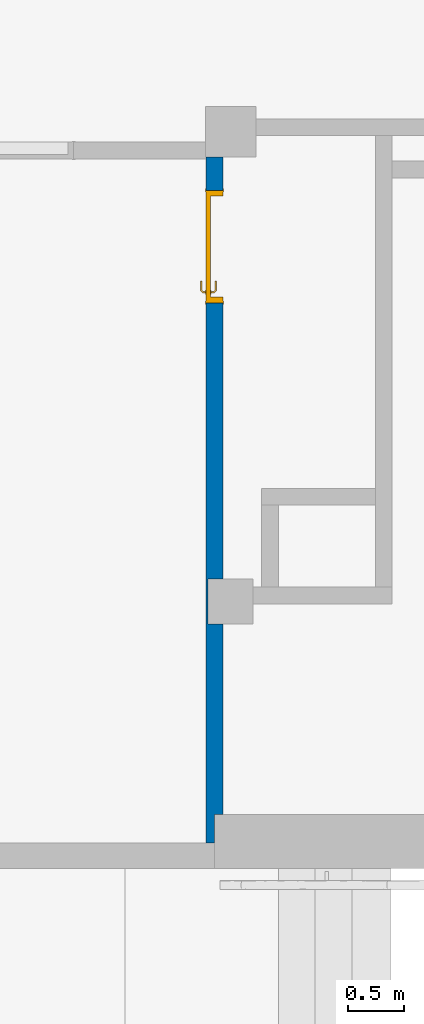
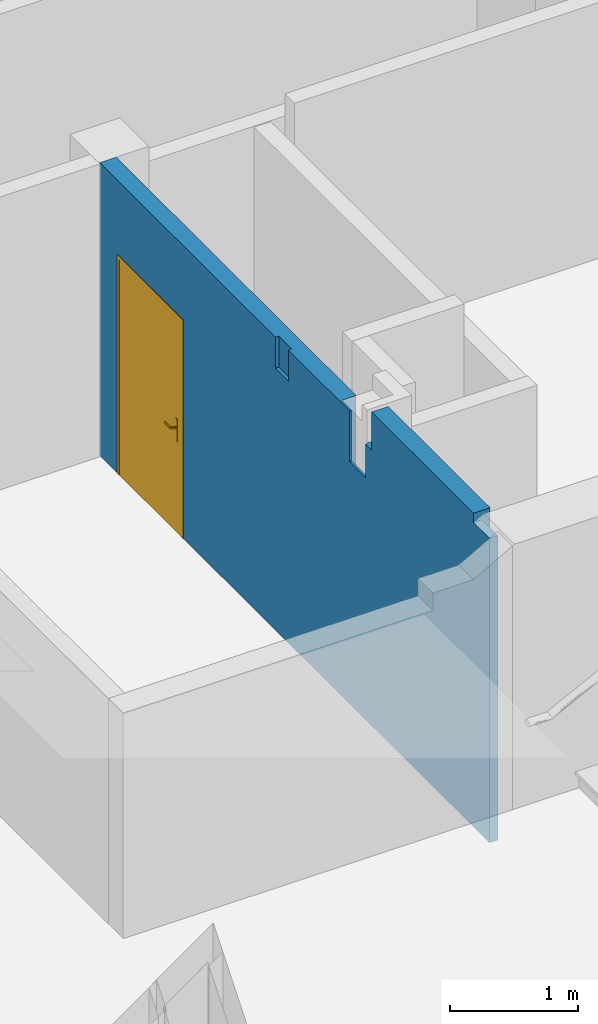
# One storey, part 11 of 39: 1 door, 1 wall, 1 opening.
"""IFC4 building model written with IfcOpenShell, lengths in metres."""

from ifc_helpers import new_model, entity, si_unit, converted_unit, derived_unit, direction, frame, origin, place, context, subcontext, project, spatial, indexed_curve, outline, extrude, polygons, source, transform, mapped, material, material_list, layer, layer_set, constituent, constituent_set, type_object, type_shapes, element, fill, save


model = new_model("IFC4")

# Units and contexts
model_context = context("Model", 3, precision=1e-05, world=origin(), true_north=direction((6.12303176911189e-17, 1.0)))
body_context = subcontext(model_context, "Body", "Model", "MODEL_VIEW")
ifc_project = project(units=[si_unit("LENGTHUNIT", "METRE"), si_unit("AREAUNIT", "SQUARE_METRE"), si_unit("VOLUMEUNIT", "CUBIC_METRE"), converted_unit("PLANEANGLEUNIT", "DEGREE", entity("IfcRatioMeasure", 0.0174532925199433), si_unit("PLANEANGLEUNIT", "RADIAN"), dimensions=[0, 0, 0, 0, 0, 0, 0]), si_unit("MASSUNIT", "GRAM", prefix="KILO"), derived_unit("MASSDENSITYUNIT", [(si_unit("MASSUNIT", "GRAM", prefix="KILO"), 1), (si_unit("LENGTHUNIT", "METRE"), -3)]), derived_unit("MOMENTOFINERTIAUNIT", [(si_unit("LENGTHUNIT", "METRE"), 4)]), si_unit("TIMEUNIT", "SECOND"), si_unit("FREQUENCYUNIT", "HERTZ"), si_unit("THERMODYNAMICTEMPERATUREUNIT", "DEGREE_CELSIUS"), derived_unit("THERMALTRANSMITTANCEUNIT", [(si_unit("MASSUNIT", "GRAM", prefix="KILO"), 1), (si_unit("THERMODYNAMICTEMPERATUREUNIT", "KELVIN"), -1), (si_unit("TIMEUNIT", "SECOND"), -3)]), derived_unit("VOLUMETRICFLOWRATEUNIT", [(si_unit("LENGTHUNIT", "METRE"), 3), (si_unit("TIMEUNIT", "SECOND"), -1)]), si_unit("ELECTRICCURRENTUNIT", "AMPERE"), si_unit("ELECTRICVOLTAGEUNIT", "VOLT"), si_unit("POWERUNIT", "WATT"), si_unit("FORCEUNIT", "NEWTON", prefix="KILO"), si_unit("ILLUMINANCEUNIT", "LUX"), si_unit("LUMINOUSFLUXUNIT", "LUMEN"), si_unit("LUMINOUSINTENSITYUNIT", "CANDELA"), derived_unit("USERDEFINED", [(si_unit("MASSUNIT", "GRAM", prefix="KILO"), -1), (si_unit("LENGTHUNIT", "METRE"), -2), (si_unit("TIMEUNIT", "SECOND"), 3), (si_unit("LUMINOUSFLUXUNIT", "LUMEN"), 1)]), derived_unit("LINEARVELOCITYUNIT", [(si_unit("LENGTHUNIT", "METRE"), 1), (si_unit("TIMEUNIT", "SECOND"), -1)]), si_unit("PRESSUREUNIT", "PASCAL"), derived_unit("USERDEFINED", [(si_unit("LENGTHUNIT", "METRE"), -2), (si_unit("MASSUNIT", "GRAM", prefix="KILO"), 1), (si_unit("TIMEUNIT", "SECOND"), -2)]), derived_unit("LINEARFORCEUNIT", [(si_unit("MASSUNIT", "GRAM", prefix="KILO"), 1), (si_unit("LENGTHUNIT", "METRE"), 1), (si_unit("TIMEUNIT", "SECOND"), -2), (si_unit("LENGTHUNIT", "METRE"), -1)]), derived_unit("PLANARFORCEUNIT", [(si_unit("MASSUNIT", "GRAM", prefix="KILO"), 1), (si_unit("LENGTHUNIT", "METRE"), 1), (si_unit("TIMEUNIT", "SECOND"), -2), (si_unit("LENGTHUNIT", "METRE"), -2)])], contexts=[model_context])

# Site, building, storey
site_placement = place(None, origin())
site = spatial("IfcSite", under=ifc_project, at=site_placement, Name="Default", CompositionType="ELEMENT")
building_placement = place(site_placement, origin())
building = spatial("IfcBuilding", under=site, at=building_placement, Name="HOTEL CONSULAIRE BOULOGNE SUR MER", CompositionType="ELEMENT")
storey_placement = place(building_placement, frame((0.0, 0.0, -5.02343668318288)))
storey = spatial("IfcBuildingStorey", under=building, at=storey_placement, Name="SS3", CompositionType="ELEMENT", Elevation=-5.02343668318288)

# Wall, opening, door
ifc_material_1 = material(Name="Mur par défaut", Category="Divers")
ifc_layer = layer(ifc_material_1, 0.15, Name="Mur par défaut", Category="Divers")
ifc_layer_set = layer_set([ifc_layer], Name="Mur de base:Générique - Int. 150 mm")
wall_type = type_object("IfcWallType", Name="Mur de base:Générique - Int. 150 mm", PredefinedType="NOTDEFINED", material=ifc_layer_set)
wall_placement = place(storey_placement, frame((-1.37215893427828, -21.9392190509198, -0.43), z_axis=(0.0, 0.0, 1.0), x_axis=(0.0, 1.0, 0.0)))
wall = element("IfcWall", 1, at=wall_placement, inside=storey, type_object=wall_type, material=ifc_layer_set, Name="Mur de base:Générique - Int. 150 mm", ObjectType="Mur de base:Générique - Int. 150 mm", PredefinedType="NOTDEFINED", context=body_context, shape_type="Tessellation", body=[
    polygons([(5.80294575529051, -0.075, 2.075), (5.80294575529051, -0.075, 0.0), (6.09830924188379, -0.0749999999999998, 0.0), (6.09830924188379, -0.0749999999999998, 2.79499999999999), (5.92930924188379, -0.0749999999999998, 2.79499999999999), (2.34630924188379, -0.0749999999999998, 2.79499999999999), (2.34630924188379, -0.0749999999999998, 2.48999999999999), (2.34630924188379, -0.0749999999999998, 0.0), (4.80294575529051, -0.075, 0.0), (4.80294575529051, -0.075, 2.075), (0.0, 0.075, 0.0), (4.80294575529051, 0.075, 0.0), (2.34630924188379, 0.056664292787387, 0.0), (1.94630924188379, 0.0566642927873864, 0.0), (1.94630924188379, -0.0749999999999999, 0.0), (0.250000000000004, -0.0749999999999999, 0.0), (0.249999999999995, -7.36320987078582e-16, 0.0), (0.0, -5.19919367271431e-17, 0.0), (0.250000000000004, -0.0749999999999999, 2.90628343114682), (0.250000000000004, -0.0749999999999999, 0.452), (0.250000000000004, -0.0749999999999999, 0.162), (1.94630924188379, -0.0749999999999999, 2.48999999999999), (1.94630924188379, -0.0749999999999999, 2.62999999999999), (1.8443046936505, -0.0749999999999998, 2.62999999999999), (1.8443046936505, -0.0749999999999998, 2.99499999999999), (0.249999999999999, -0.0749999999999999, 2.99499999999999), (0.0, 0.075, 2.90628343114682), (0.249999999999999, 0.0750000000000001, 2.90628343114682), (0.249999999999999, 0.0750000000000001, 2.99499999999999), (1.8443046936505, 0.0750000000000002, 2.99499999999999), (1.8443046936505, 0.0750000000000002, 2.62999999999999), (1.94098772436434, 0.0750000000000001, 2.62999999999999), (1.94098772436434, 0.0750000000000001, 2.30999999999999), (2.19098772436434, 0.0750000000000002, 2.30999999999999), (2.19098772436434, 0.0750000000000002, 2.79499999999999), (3.14868059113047, 0.0750000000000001, 2.79499999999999), (3.14868059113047, 0.0750000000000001, 2.49999999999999), (3.34868059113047, 0.0750000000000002, 2.49999999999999), (3.34868059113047, 0.0750000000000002, 2.79499999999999), (6.08098563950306, 0.0750000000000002, 2.79499999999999), (6.09830924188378, 0.0750000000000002, 2.79499999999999), (6.09830924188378, 0.0750000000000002, 0.0), (6.08098563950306, 0.0750000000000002, 0.0), (5.80294575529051, 0.075, 0.0), (5.80294575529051, 0.075, 2.075), (4.80294575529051, 0.075, 2.075), (0.249999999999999, -1.94887422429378e-16, 2.90628343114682), (0.249999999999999, -1.94887422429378e-16, 2.74999999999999), (1.94630924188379, 0.0566642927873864, 2.62999999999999), (1.94630924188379, -0.0624678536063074, 2.62999999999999), (1.94630924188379, 0.0568026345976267, 2.30999999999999), (2.34630924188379, 0.056664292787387, 2.79499999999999), (2.19098772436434, 0.0566642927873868, 2.79499999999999), (2.19098772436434, 0.0566642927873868, 2.30999999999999), (1.94098772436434, 0.056802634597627, 2.62999999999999), (1.8443046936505, -0.0624678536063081, 2.62999999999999), (3.34868059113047, 0.0440469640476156, 2.79499999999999), (3.14868059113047, 0.0440469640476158, 2.79499999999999), (0.0, -5.19919367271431e-17, 2.90628343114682), (3.34868059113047, 0.0440469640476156, 2.49999999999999), (3.14868059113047, 0.0440469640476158, 2.49999999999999), (1.94098772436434, 0.0568026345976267, 2.30999999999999)], [[[8, 9, 10, 1, 2, 3, 4, 5, 6, 7]], [[20, 21, 16, 15, 22, 23, 24, 25, 26, 19]], [[52, 53, 54, 14, 13]], [[59, 18, 17, 48, 47]], [[16, 17, 18, 11, 12, 9, 8, 13, 14, 15]], [[45, 1, 10, 46]], [[3, 2, 44, 43, 42]], [[45, 46, 12, 11, 27, 28, 29, 30, 31, 32, 33, 34, 35, 36, 37, 38, 39, 40, 41, 42, 43, 44]], [[61, 58, 57, 60]], [[48, 17, 16, 21, 20, 19, 26, 29, 28, 47]], [[7, 6, 52, 13, 8]], [[44, 2, 1, 45]], [[27, 11, 18, 59]], [[38, 60, 57, 39]], [[35, 34, 54, 53]], [[22, 15, 14, 51, 49, 50, 23]], [[12, 46, 10, 9]], [[42, 41, 4, 3]], [[56, 31, 30, 25, 24]], [[36, 58, 61, 37]], [[32, 55, 62, 33]], [[51, 14, 54]], [[56, 24, 23, 50, 49, 55, 32, 31]], [[52, 6, 5, 4, 41, 40, 39, 57, 58, 36, 35, 53]], [[26, 25, 30, 29]], [[28, 27, 59, 47]], [[37, 61, 60, 38]], [[33, 62, 51, 54, 34]], [[62, 55, 49]], [[49, 51, 62]]], closed=True),
])
opening_placement = place(wall_placement, frame((4.80294575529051, -0.0749999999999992, 0.0)))
opening = element("IfcOpeningElement", 2, at=opening_placement, cuts=wall, Name="Int. Simple:PP0.93x2.04:1", ObjectType="Opening", PredefinedType="OPENING", context=body_context, shape_type="SweptSolid", body=[
    extrude(outline(indexed_curve([(0.0, 1.0), (0.0, -5.39454731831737e-32), (2.075, -5.39454731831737e-32), (2.075, 1.0), (0.0, 1.0)], self_intersect=False)), frame((0.0, 0.0, 0.0), z_axis=(0.0, 1.0, 0.0), x_axis=(0.0, 0.0, 1.0)), (0.0, 0.0, 1.0), 0.15),
])
ifc_material_2 = material(Name="Finition Peinture - Blanc satiné", Category="Peinture")
ifc_constituent_1 = constituent(ifc_material_2, Name="Finition Peinture - Blanc satiné", Category="Matériaux")
ifc_material_3 = material(Name="Bois - Panneau de porte", Category="Bois")
ifc_constituent_2 = constituent(ifc_material_3, Name="Bois - Panneau de porte", Category="Matériaux")
ifc_material_4 = material(Name="Bois - Cadre de porte", Category="Bois")
ifc_constituent_3 = constituent(ifc_material_4, Name="Bois - Cadre de porte", Category="Matériaux")
ifc_constituent_set = constituent_set(constituents=[ifc_constituent_1, ifc_constituent_2, ifc_constituent_3], Name="MaterialConstituentSet")
ifc_material_list = material_list([ifc_material_2, ifc_material_4, ifc_material_3, ifc_material_4])
door_type = type_object("IfcDoorType", Name="Int. Simple:PP0.93x2.04", OperationType="NOTDEFINED", PredefinedType="DOOR", material=ifc_material_list)
shared_shape = source(origin(), body_context, "Body", "Tessellation", [
    polygons([(0.995000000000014, -0.00500000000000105, 0.870000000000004), (0.995000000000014, -0.00500000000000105, 1.08), (0.985352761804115, -0.00500000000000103, 1.08399601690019), (0.975000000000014, -0.00500000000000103, 1.08535898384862), (0.964647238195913, -0.00500000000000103, 1.08399601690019), (0.955000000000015, -0.00500000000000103, 1.08), (0.955000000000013, -0.00500000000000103, 0.870000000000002), (0.964647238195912, -0.00500000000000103, 0.866003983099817), (0.975000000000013, -0.00500000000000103, 0.86464101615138), (0.985352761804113, -0.00500000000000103, 0.866003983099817), (0.995000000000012, -1.04902753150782e-15, 0.870000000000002), (0.985352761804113, -1.04902753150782e-15, 0.866003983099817), (0.975000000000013, -1.04056763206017e-15, 0.86464101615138), (0.964647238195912, -1.04056763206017e-15, 0.866003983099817), (0.955000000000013, -1.03210773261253e-15, 0.870000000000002), (0.955000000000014, -1.03210773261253e-15, 1.08), (0.964647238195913, -1.04056763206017e-15, 1.08399601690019), (0.975000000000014, -1.04056763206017e-15, 1.08535898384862), (0.985352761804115, -1.04902753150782e-15, 1.08399601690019), (0.995000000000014, -1.04902753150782e-15, 1.08)], [[[1, 2, 3, 4, 5, 6, 7, 8, 9, 10]], [[20, 11, 12, 13, 14, 15, 16, 17, 18, 19]], [[10, 12, 11, 1]], [[9, 13, 12, 10]], [[8, 14, 13, 9]], [[8, 7, 15, 14]], [[15, 7, 6, 16]], [[5, 17, 16, 6]], [[4, 18, 17, 5]], [[3, 19, 18, 4]], [[3, 2, 20, 19]], [[11, 20, 2, 1]]], closed=True),
    polygons([(0.955000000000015, 0.0399999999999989, 1.08), (0.955000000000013, 0.0399999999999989, 0.870000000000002), (0.964647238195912, 0.0399999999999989, 0.866003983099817), (0.975000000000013, 0.0399999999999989, 0.86464101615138), (0.985352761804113, 0.0399999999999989, 0.866003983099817), (0.995000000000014, 0.0399999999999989, 0.870000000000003), (0.995000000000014, 0.0399999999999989, 1.08), (0.985352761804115, 0.0399999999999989, 1.08399601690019), (0.975000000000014, 0.0399999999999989, 1.08535898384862), (0.964647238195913, 0.0399999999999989, 1.08399601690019), (0.955000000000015, 0.044999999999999, 1.08), (0.964647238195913, 0.0449999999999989, 1.08399601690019), (0.975000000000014, 0.0449999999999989, 1.08535898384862), (0.985352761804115, 0.0449999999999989, 1.08399601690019), (0.995000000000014, 0.0449999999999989, 1.08), (0.995000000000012, 0.0449999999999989, 0.870000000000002), (0.985352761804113, 0.0449999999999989, 0.866003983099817), (0.975000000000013, 0.0449999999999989, 0.86464101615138), (0.964647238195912, 0.0449999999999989, 0.866003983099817), (0.955000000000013, 0.044999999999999, 0.870000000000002)], [[[6, 7, 8, 9, 10, 1, 2, 3, 4, 5]], [[13, 14, 15, 16, 17, 18, 19, 20, 11, 12]], [[10, 12, 11, 1]], [[9, 13, 12, 10]], [[8, 14, 13, 9]], [[8, 7, 15, 14]], [[16, 15, 7, 6]], [[5, 17, 16, 6]], [[4, 18, 17, 5]], [[3, 19, 18, 4]], [[3, 2, 20, 19]], [[20, 2, 1, 11]]], closed=True),
    polygons([(0.981000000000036, -0.00500000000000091, 1.00699999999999), (0.981000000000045, -0.00500000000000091, 0.992999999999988), (0.977025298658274, -0.00500000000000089, 0.99221955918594), (0.972974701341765, -0.00500000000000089, 0.992219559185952), (0.968999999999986, -0.00500000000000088, 0.993000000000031), (0.968999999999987, -0.00500000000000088, 1.007), (0.972974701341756, -0.00500000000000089, 1.00778044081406), (0.977025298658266, -0.00500000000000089, 1.00778044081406), (0.968999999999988, -0.0276803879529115, 1.007), (0.972974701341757, -0.0293267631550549, 1.00778044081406), (0.977025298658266, -0.0310045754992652, 1.00778044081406), (0.981000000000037, -0.0326509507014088, 1.007), (0.968999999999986, -0.0276803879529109, 0.993000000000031), (0.981000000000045, -0.0326509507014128, 0.992999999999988), (0.977025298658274, -0.0310045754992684, 0.99221955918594), (0.972974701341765, -0.0293267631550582, 0.992219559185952), (0.957652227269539, -0.0390281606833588, 1.007), (0.959298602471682, -0.0430028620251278, 1.00778044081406), (0.960976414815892, -0.0470534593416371, 1.00778044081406), (0.962622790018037, -0.051028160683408, 1.007), (0.957652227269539, -0.0390281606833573, 0.993000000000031), (0.96262279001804, -0.0510281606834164, 0.992999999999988), (0.960976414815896, -0.0470534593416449, 0.99221955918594), (0.959298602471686, -0.0430028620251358, 0.992219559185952), (0.874981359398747, -0.0510281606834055, 1.007), (0.874981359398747, -0.0470534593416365, 1.00778044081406), (0.874981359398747, -0.0430028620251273, 1.00778044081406), (0.874981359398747, -0.0390281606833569, 1.00699999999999), (0.874981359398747, -0.0390281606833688, 0.993000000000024), (0.874981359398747, -0.0430028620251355, 0.992219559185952), (0.874981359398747, -0.0470534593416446, 0.99221955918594), (0.874981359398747, -0.0510281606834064, 0.992999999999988), (0.922692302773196, -0.051028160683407, 1.007), (0.917139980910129, -0.045028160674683, 1.0078786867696), (0.916316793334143, -0.0390281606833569, 1.007), (0.922692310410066, -0.0510281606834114, 0.992999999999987), (0.917139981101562, -0.0450281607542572, 0.992121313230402), (0.916316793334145, -0.0390281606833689, 0.993000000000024)], [[[7, 8, 1, 2, 3, 4, 5, 6]], [[17, 21, 38, 29, 28, 35]], [[1, 8, 11, 12]], [[8, 7, 10, 18, 19, 11]], [[7, 6, 9, 10]], [[13, 9, 6, 5]], [[25, 26, 27, 28, 29, 30, 31, 32]], [[4, 16, 13, 5]], [[4, 3, 15, 23, 24, 16]], [[2, 14, 15, 3]], [[12, 14, 2, 1]], [[12, 11, 19, 20]], [[10, 9, 17, 18]], [[21, 17, 9, 13]], [[13, 16, 24, 21]], [[15, 14, 22, 23]], [[20, 22, 14, 12]], [[34, 26, 33]], [[33, 26, 25]], [[33, 20, 19]], [[18, 35, 34]], [[35, 18, 17]], [[28, 27, 35]], [[34, 27, 26]], [[34, 35, 27]], [[34, 33, 19]], [[18, 34, 19]], [[37, 30, 38]], [[31, 37, 36]], [[24, 38, 21]], [[30, 29, 38]], [[31, 36, 32]], [[36, 23, 22]], [[37, 23, 36]], [[37, 24, 23]], [[37, 38, 24]], [[30, 37, 31]], [[22, 20, 33, 25, 32, 36]]], closed=True),
    polygons([(0.968999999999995, 0.0449999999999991, 0.993000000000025), (0.972974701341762, 0.0449999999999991, 0.992219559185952), (0.977025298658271, 0.0449999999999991, 0.99221955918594), (0.981000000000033, 0.0449999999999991, 0.992999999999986), (0.981000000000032, 0.0449999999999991, 1.007), (0.977025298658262, 0.0449999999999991, 1.00778044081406), (0.972974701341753, 0.0449999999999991, 1.00778044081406), (0.968999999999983, 0.0449999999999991, 1.007), (0.968999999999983, 0.067485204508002, 1.007), (0.968999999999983, 0.0674852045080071, 0.993000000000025), (0.981000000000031, 0.0724557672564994, 1.007), (0.977025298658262, 0.070809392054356, 1.00778044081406), (0.972974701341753, 0.0691315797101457, 1.00778044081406), (0.981000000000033, 0.0724557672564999, 0.992999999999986), (0.972974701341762, 0.0691315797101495, 0.992219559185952), (0.977025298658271, 0.0708093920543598, 0.99221955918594), (0.957514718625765, 0.0789704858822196, 1.007), (0.957514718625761, 0.0789704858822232, 0.993000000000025), (0.962485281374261, 0.0909704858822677, 1.007), (0.960838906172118, 0.0869957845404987, 1.00778044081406), (0.959161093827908, 0.0829451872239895, 1.00778044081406), (0.962485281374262, 0.0909704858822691, 0.992999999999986), (0.959161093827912, 0.0829451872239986, 0.992219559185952), (0.960838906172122, 0.0869957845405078, 0.99221955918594), (0.874954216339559, 0.0789704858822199, 0.993000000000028), (0.874954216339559, 0.0789704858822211, 1.007), (0.874954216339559, 0.0829451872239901, 1.00778044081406), (0.874954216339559, 0.0869957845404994, 1.00778044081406), (0.874954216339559, 0.0909704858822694, 1.007), (0.874954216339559, 0.0909704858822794, 0.992999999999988), (0.874954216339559, 0.086995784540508, 0.99221955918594), (0.874954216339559, 0.0829451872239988, 0.992219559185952), (0.922554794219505, 0.0909704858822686, 1.007), (0.917057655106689, 0.0849704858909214, 1.0078786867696), (0.916234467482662, 0.0789704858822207, 1.007), (0.922554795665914, 0.0909704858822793, 0.992999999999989), (0.917057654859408, 0.0849704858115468, 0.992121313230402), (0.916234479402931, 0.0789704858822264, 0.993000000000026)], [[[2, 3, 4, 5, 6, 7, 8, 1]], [[18, 17, 35, 26, 25, 38]], [[9, 10, 1, 8]], [[27, 28, 29, 30, 31, 32, 25, 26]], [[7, 13, 9, 8]], [[7, 6, 12, 20, 21, 13]], [[5, 11, 12, 6]], [[11, 5, 4, 14]], [[4, 3, 16, 14]], [[3, 2, 15, 23, 24, 16]], [[2, 1, 10, 15]], [[17, 18, 10, 9]], [[9, 13, 21, 17]], [[11, 19, 20, 12]], [[22, 19, 11, 14]], [[14, 16, 24, 22]], [[15, 10, 18, 23]], [[34, 27, 35]], [[28, 34, 33]], [[21, 35, 17]], [[27, 26, 35]], [[28, 33, 29]], [[33, 20, 19]], [[34, 20, 33]], [[34, 21, 20]], [[34, 35, 21]], [[27, 34, 28]], [[19, 22, 36, 30, 29, 33]], [[37, 31, 36]], [[36, 31, 30]], [[36, 22, 24]], [[23, 38, 37]], [[38, 23, 18]], [[25, 32, 38]], [[37, 32, 31]], [[37, 38, 32]], [[37, 36, 24]], [[23, 37, 24]]], closed=True),
    polygons([(1.03500000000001, 0.04, 2.04), (1.03500000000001, 0.04, 0.0), (0.105000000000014, 0.04, 0.0), (0.105000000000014, 0.04, 2.04), (1.03500000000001, 5.07593966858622e-17, 2.04), (0.105000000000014, 5.07593966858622e-17, 2.04), (0.105000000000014, 5.07593966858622e-17, 0.0), (1.03500000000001, 5.07593966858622e-17, 0.0)], [[[3, 4, 1, 2]], [[8, 5, 6, 7]], [[5, 1, 4, 6]], [[6, 4, 3, 7]], [[7, 3, 2, 8]], [[8, 2, 1, 5]]], closed=True),
    polygons([(1.07000000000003, 1.69197988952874e-17, 0.0), (1.03500000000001, 1.69197988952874e-17, 0.0), (1.03500000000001, 0.0400000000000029, 0.0), (1.02000000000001, 0.0400000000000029, 0.0), (1.02000000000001, 0.150000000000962, 0.0), (1.07000000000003, 0.150000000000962, 0.0), (1.07000000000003, 0.150000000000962, 2.07500000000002), (1.07000000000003, 1.69197988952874e-17, 2.07500000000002), (1.02000000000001, 0.150000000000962, 2.025), (0.120000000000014, 0.150000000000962, 2.025), (0.120000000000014, 0.150000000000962, 3.59657255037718e-24), (0.0699999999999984, 0.150000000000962, 3.88816484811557e-25), (0.0699999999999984, 0.150000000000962, 2.07500000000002), (1.02000000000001, 0.0400000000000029, 2.025), (1.03500000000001, 0.0400000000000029, 2.04), (0.105000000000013, 0.0400000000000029, 2.04), (0.105000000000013, 0.0400000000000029, -4.78103047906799e-25), (0.120000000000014, 0.0400000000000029, 2.24110802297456e-24), (0.120000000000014, 0.0400000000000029, 2.025), (1.03500000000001, 1.69197988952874e-17, 2.04), (0.0699999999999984, 1.69197988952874e-17, 2.07500000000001), (0.0699999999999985, 1.69197988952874e-17, -3.95490158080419e-25), (0.105000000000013, 1.69197988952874e-17, -2.84752548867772e-24), (0.105000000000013, 1.69197988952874e-17, 2.04)], [[[5, 6, 1, 2, 3, 4]], [[17, 23, 22, 12, 11, 18]], [[19, 10, 9, 14]], [[24, 16, 15, 20]], [[8, 1, 6, 7]], [[18, 11, 10, 19]], [[17, 16, 24, 23]], [[9, 10, 11, 12, 13, 7, 6, 5]], [[14, 9, 5, 4]], [[20, 15, 3, 2]], [[22, 21, 13, 12]], [[19, 14, 4, 3, 15, 16, 17, 18]], [[24, 20, 2, 1, 8, 21, 22, 23]], [[21, 8, 7, 13]]], closed=True),
    polygons([(1.05500000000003, 0.150000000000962, 0.0), (1.05500000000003, 0.155000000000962, 0.0), (1.08500000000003, 0.155000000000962, 0.0), (1.08500000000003, 0.150000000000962, 0.0), (1.08500000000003, 0.150000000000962, 2.09000000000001), (0.0550000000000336, 0.150000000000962, 2.09000000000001), (0.0550000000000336, 0.150000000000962, -9.00794238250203e-25), (0.0850000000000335, 0.150000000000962, -1.80158911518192e-24), (0.0850000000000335, 0.150000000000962, 2.06000000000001), (1.05500000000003, 0.150000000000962, 2.06000000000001), (1.08500000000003, 0.155000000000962, 2.09000000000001), (1.05500000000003, 0.155000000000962, 2.06000000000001), (0.0850000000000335, 0.155000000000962, 2.06000000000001), (0.0850000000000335, 0.155000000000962, -4.34281663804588e-24), (0.0550000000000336, 0.155000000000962, -5.48159974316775e-24), (0.0550000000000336, 0.155000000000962, 2.09000000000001)], [[[2, 3, 4, 1]], [[7, 15, 14, 8]], [[13, 12, 10, 9]], [[9, 10, 1, 4, 5, 6, 7, 8]], [[11, 5, 4, 3]], [[8, 14, 13, 9]], [[12, 13, 14, 15, 16, 11, 3, 2]], [[10, 12, 2, 1]], [[15, 7, 6, 16]], [[6, 5, 11, 16]]], closed=True),
    polygons([(1.05500000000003, -0.00499999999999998, 0.0), (1.05500000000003, 1.69197988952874e-17, 0.0), (1.08500000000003, 1.69197988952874e-17, 0.0), (1.08500000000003, -0.00499999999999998, 0.0), (0.0850000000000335, -0.00499999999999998, 5.41433564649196e-16), (0.0550000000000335, -0.00499999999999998, 5.41433564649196e-16), (0.0550000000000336, 1.69197988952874e-17, 5.41433564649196e-16), (0.0850000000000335, 1.69197988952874e-17, 5.41433564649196e-16), (1.08500000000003, -0.00499999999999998, 2.09000000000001), (0.0550000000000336, -0.00499999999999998, 2.09000000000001), (0.0850000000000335, -0.00499999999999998, 2.06000000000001), (1.05500000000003, -0.00499999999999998, 2.06000000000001), (1.08500000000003, 1.69197988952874e-17, 2.09000000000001), (1.05500000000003, 1.69197988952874e-17, 2.06000000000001), (0.0850000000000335, 1.69197988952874e-17, 2.06000000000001), (0.0550000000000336, 1.69197988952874e-17, 2.09000000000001)], [[[2, 3, 4, 1]], [[6, 7, 8, 5]], [[15, 14, 12, 11]], [[11, 12, 1, 4, 9, 10, 6, 5]], [[13, 9, 4, 3]], [[5, 8, 15, 11]], [[14, 15, 8, 7, 16, 13, 3, 2]], [[12, 14, 2, 1]], [[7, 6, 10, 16]], [[16, 10, 9, 13]]], closed=True),
])
type_shapes(door_type, [shared_shape])
door_placement = place(opening_placement, frame((1.07000000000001, 0.14999999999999, 0.0), z_axis=(0.0, 0.0, 1.0), x_axis=(-1.0, 0.0, 0.0)))
door = element("IfcDoor", 3, at=door_placement, inside=storey, type_object=door_type, material=ifc_constituent_set, Name="Int. Simple:PP0.93x2.04", ObjectType="Int. Simple:PP0.93x2.04", OperationType="NOTDEFINED", OverallHeight=2.075, OverallWidth=1.0, PredefinedType="DOOR", context=body_context, shape_type="MappedRepresentation", body=[
    mapped(shared_shape, transform((0.0, 0.0, 0.0), scale=1.0)),
])
fill(opening, door)

save(model, "model.ifc")
